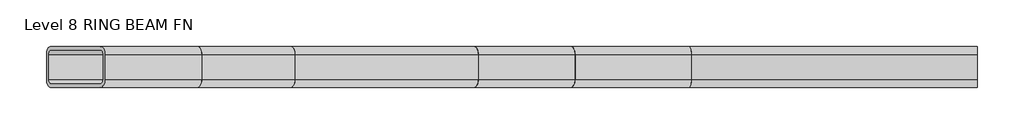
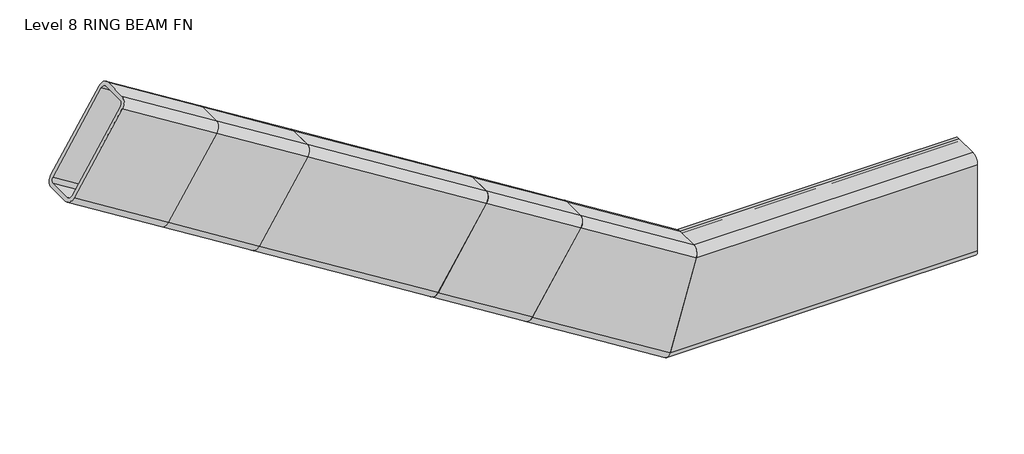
# One storey: 6 beams.
"""IFC4 building model written with IfcOpenShell, lengths in millimetres."""

from ifc_helpers import new_model, si_unit, frame, origin, place, context, project, spatial, polyline, circle_curve, ellipse_curve, transform, mapped, element, save
from ifc_brep_helpers import plane_surface, cylinder_surface, revolved_surface, advanced_brep
from components import rectangular_and_square_hollow_sections_784448e1, rectangular_and_square_hollow_sections_0bb3da22, rectangular_and_square_hollow_sections_b0745ad2, rectangular_and_square_hollow_sections_4b37a91f

model = new_model("IFC4")

# Units and contexts
model_context = context("Model", 3, world=origin())
ifc_project = project(units=[si_unit("LENGTHUNIT", "METRE", prefix="MILLI")], contexts=[model_context])

# Site, building, storey
site = spatial("IfcSite", under=ifc_project)
building = spatial("IfcBuilding", under=site)
storey = spatial("IfcBuildingStorey", under=building, Name="Level 8 RING BEAM FN", Elevation=-1875.7498364)

# Beams
placement = place(None, origin())
element("IfcBeam", 1, ObjectType="Rectangular and Square Hollow Sections : TREC160x60x6", at=placement, inside=storey, context=model_context, shape_type="AdvancedBrep", body=[
    advanced_brep(
    [(2399.3600129, 2207.1252219, -1831.747381), (2399.3600129, 2195.1252219, -1819.747381), (2399.3600129, 2159.1252219, -1819.747381), (2399.3600129, 2147.1252219, -1831.747381), (2399.3600129, 2147.1252219, -1967.747381), (2399.3600129, 2159.1252219, -1979.747381), (2399.3600129, 2195.1252219, -1979.747381), (2399.3600129, 2207.1252219, -1967.747381), (2399.3600129, 2159.1252219, -1825.747381), (2399.3600129, 2195.1252219, -1825.747381), (2399.3600129, 2201.1252219, -1831.747381), (2399.3600129, 2201.1252219, -1967.747381), (2399.3600129, 2195.1252219, -1973.747381), (2399.3600129, 2159.1252219, -1973.747381), (2399.3600129, 2153.1252219, -1967.747381), (2399.3600129, 2153.1252219, -1831.747381), (1979.7764586, 2207.1252219, -1831.747381), (1983.2174032, 2195.1252219, -1819.747381), (1983.2174032, 2159.1252219, -1819.747381), (1979.7764586, 2147.1252219, -1831.747381), (1940.7790862, 2147.1252219, -1967.747381), (1937.3381416, 2159.1252219, -1979.747381), (1937.3381416, 2195.1252219, -1979.747381), (1940.7790862, 2207.1252219, -1967.747381), (1981.4969309, 2159.1252219, -1825.747381), (1981.4969309, 2195.1252219, -1825.747381), (1979.7764586, 2201.1252219, -1831.747381), (1940.7790862, 2201.1252219, -1967.747381), (1939.0586139, 2195.1252219, -1973.747381), (1939.0586139, 2159.1252219, -1973.747381), (1940.7790862, 2153.1252219, -1967.747381), (1979.7764586, 2153.1252219, -1831.747381)],
    [
        (0, 1, circle_curve(frame((2399.3600129, 2195.1252219, -1831.747381), z_axis=(1.0, 0.0, 0.0), x_axis=(0.0, -1.0, 0.0)), 12.0)),
        (1, 2),
        (2, 3, circle_curve(frame((2399.3600129, 2159.1252219, -1831.747381), z_axis=(1.0, 0.0, 0.0), x_axis=(0.0, -1.0, 0.0)), 12.0)),
        (3, 4),
        (4, 5, circle_curve(frame((2399.3600129, 2159.1252219, -1967.747381), z_axis=(1.0, 0.0, 0.0), x_axis=(0.0, -1.0, 0.0)), 12.0)),
        (5, 6),
        (6, 7, circle_curve(frame((2399.3600129, 2195.1252219, -1967.747381), z_axis=(1.0, 0.0, 0.0), x_axis=(0.0, -1.0, 0.0)), 12.0)),
        (7, 0),
        (8, 9),
        (9, 10, circle_curve(frame((2399.3600129, 2195.1252219, -1831.747381), z_axis=(-1.0, 0.0, 0.0), x_axis=(0.0, -1.0, 0.0)), 6.0)),
        (10, 11),
        (11, 12, circle_curve(frame((2399.3600129, 2195.1252219, -1967.747381), z_axis=(-1.0, 0.0, 0.0), x_axis=(0.0, -1.0, 0.0)), 6.0)),
        (12, 13),
        (13, 14, circle_curve(frame((2399.3600129, 2159.1252219, -1967.747381), z_axis=(-1.0, 0.0, 0.0), x_axis=(0.0, -1.0, 0.0)), 6.0)),
        (14, 15),
        (15, 8, circle_curve(frame((2399.3600129, 2159.1252219, -1831.747381), z_axis=(-1.0, 0.0, 0.0), x_axis=(0.0, -1.0, 0.0)), 6.0)),
        (0, 16),
        (16, 17, ellipse_curve(frame((1979.7764586, 2195.1252219, -1831.747381), z_axis=(0.9612616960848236, 0.0, -0.2756373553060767), x_axis=(0.2756373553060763, 0.0, 0.9612616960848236)), 12.4835932, 12.0)),
        (17, 1),
        (17, 18),
        (18, 2),
        (18, 19, ellipse_curve(frame((1979.7764586, 2159.1252219, -1831.747381), z_axis=(0.9612616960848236, 0.0, -0.2756373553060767), x_axis=(0.2756373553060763, 0.0, 0.9612616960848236)), 12.4835932, 12.0)),
        (19, 3),
        (19, 20),
        (20, 4),
        (20, 21, ellipse_curve(frame((1940.7790862, 2159.1252219, -1967.747381), z_axis=(0.9612616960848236, 0.0, -0.2756373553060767), x_axis=(0.2756373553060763, 0.0, 0.9612616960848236)), 12.4835932, 12.0)),
        (21, 5),
        (21, 22),
        (22, 6),
        (22, 23, ellipse_curve(frame((1940.7790862, 2195.1252219, -1967.747381), z_axis=(0.9612616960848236, 0.0, -0.2756373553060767), x_axis=(0.2756373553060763, 0.0, 0.9612616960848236)), 12.4835932, 12.0)),
        (23, 7),
        (23, 16),
        (8, 24),
        (24, 25),
        (25, 9),
        (25, 26, ellipse_curve(frame((1979.7764586, 2195.1252219, -1831.747381), z_axis=(-0.9612616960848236, 0.0, 0.2756373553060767), x_axis=(-0.2756373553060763, 0.0, -0.9612616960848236)), 6.2417966, 6.0)),
        (26, 10),
        (26, 27),
        (27, 11),
        (27, 28, ellipse_curve(frame((1940.7790862, 2195.1252219, -1967.747381), z_axis=(-0.9612616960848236, 0.0, 0.2756373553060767), x_axis=(-0.2756373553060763, 0.0, -0.9612616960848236)), 6.2417966, 6.0)),
        (28, 12),
        (28, 29),
        (29, 13),
        (29, 30, ellipse_curve(frame((1940.7790862, 2159.1252219, -1967.747381), z_axis=(-0.9612616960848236, 0.0, 0.2756373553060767), x_axis=(-0.2756373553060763, 0.0, -0.9612616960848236)), 6.2417966, 6.0)),
        (30, 14),
        (30, 31),
        (31, 15),
        (31, 24, ellipse_curve(frame((1979.7764586, 2159.1252219, -1831.747381), z_axis=(-0.9612616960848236, 0.0, 0.2756373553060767), x_axis=(-0.2756373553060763, 0.0, -0.9612616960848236)), 6.2417966, 6.0)),
    ],
    [
        plane_surface(frame((2399.3600129, 2177.1252219, -1899.747381), z_axis=(1.0, 0.0, 0.0), x_axis=(0.0, 0.0, 1.0))),
        cylinder_surface(frame((2399.3600129, 2195.1252219, -1831.747381), z_axis=(1.0, 0.0, 0.0), x_axis=(0.0, -1.0, 0.0)), 12.0),
        plane_surface(frame((2399.3600129, 2195.1252219, -1819.747381), z_axis=(0.0, 0.0, 1.0), x_axis=(-1.0, 0.0, 0.0))),
        cylinder_surface(frame((2399.3600129, 2159.1252219, -1831.747381), z_axis=(1.0, 0.0, 0.0), x_axis=(0.0, -1.0, 0.0)), 12.0),
        plane_surface(frame((2399.3600129, 2147.1252219, -1831.747381), z_axis=(0.0, -1.0, 0.0), x_axis=(-1.0, 0.0, 0.0))),
        cylinder_surface(frame((2399.3600129, 2159.1252219, -1967.747381), z_axis=(1.0, 0.0, 0.0), x_axis=(0.0, -1.0, 0.0)), 12.0),
        plane_surface(frame((2399.3600129, 2159.1252219, -1979.747381), z_axis=(0.0, 0.0, -1.0), x_axis=(-1.0, 0.0, 0.0))),
        cylinder_surface(frame((2399.3600129, 2195.1252219, -1967.747381), z_axis=(1.0, 0.0, 0.0), x_axis=(0.0, -1.0, 0.0)), 12.0),
        plane_surface(frame((2399.3600129, 2207.1252219, -1967.747381), z_axis=(0.0, 1.0, 0.0), x_axis=(-1.0, 0.0, 0.0))),
        plane_surface(frame((2399.3600129, 2159.1252219, -1825.747381), z_axis=(0.0, 0.0, -1.0), x_axis=(-1.0, 0.0, 0.0))),
        revolved_surface(polyline([(1978.0559862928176, 2189.1252219, -1831.747381), (2399.3600129, 2189.1252219, -1831.747381)]), (2399.3600129, 2195.1252219, -1831.747381), (-1.0, 0.0, 0.0)),
        plane_surface(frame((2399.3600129, 2201.1252219, -1831.747381), z_axis=(0.0, -1.0, 0.0), x_axis=(-1.0, 0.0, 0.0))),
        revolved_surface(polyline([(1939.0586138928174, 2189.1252219, -1967.747381), (2399.3600129, 2189.1252219, -1967.747381)]), (2399.3600129, 2195.1252219, -1967.747381), (-1.0, 0.0, 0.0)),
        plane_surface(frame((2399.3600129, 2195.1252219, -1973.747381), z_axis=(0.0, 0.0, 1.0), x_axis=(-1.0, 0.0, 0.0))),
        revolved_surface(polyline([(1939.0586138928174, 2153.1252219, -1967.747381), (2399.3600129, 2153.1252219, -1967.747381)]), (2399.3600129, 2159.1252219, -1967.747381), (-1.0, 0.0, 0.0)),
        plane_surface(frame((2399.3600129, 2153.1252219, -1967.747381), z_axis=(0.0, 1.0, 0.0), x_axis=(-1.0, 0.0, 0.0))),
        revolved_surface(polyline([(1978.0559862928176, 2153.1252219, -1831.747381), (2399.3600129, 2153.1252219, -1831.747381)]), (2399.3600129, 2159.1252219, -1831.747381), (-1.0, 0.0, 0.0)),
        plane_surface(frame((1983.2174032, 2177.1252219, -1819.747381), z_axis=(-0.9612616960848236, 0.0, 0.2756373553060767), x_axis=(0.2756373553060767, 0.0, 0.9612616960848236))),
    ],
    [
        (0, [[1, 2, 3, 4, 5, 6, 7, 8], [9, 10, 11, 12, 13, 14, 15, 16]]),
        (1, [[-1, 17, 18, 19]]),
        (2, [[-2, -19, 20, 21]]),
        (3, [[-3, -21, 22, 23]]),
        (4, [[-4, -23, 24, 25]]),
        (5, [[-5, -25, 26, 27]]),
        (6, [[-6, -27, 28, 29]]),
        (7, [[-7, -29, 30, 31]]),
        (8, [[-8, -31, 32, -17]]),
        (9, [[-9, 33, 34, 35]]),
        (10, [[-10, -35, 36, 37]]),
        (11, [[-11, -37, 38, 39]]),
        (12, [[-12, -39, 40, 41]]),
        (13, [[-13, -41, 42, 43]]),
        (14, [[-14, -43, 44, 45]]),
        (15, [[-15, -45, 46, 47]]),
        (16, [[-16, -47, 48, -33]]),
        (17, [[-32, -30, -28, -26, -24, -22, -20, -18], [-48, -46, -44, -42, -40, -38, -36, -34]]),
    ],
),
])
element("IfcBeam", 2, ObjectType="Rectangular and Square Hollow Sections : TREC160x60x6", at=placement, inside=storey, context=model_context, shape_type="AdvancedBrep", body=[
    advanced_brep(
    [(1807.6985802, 2207.1252219, -1724.2211889), (1735.6295604, 2207.1252219, -1839.5557301), (1729.2705292, 2195.1252219, -1849.7323072), (1729.2705292, 2159.1252219, -1849.7323072), (1735.6295604, 2147.1252219, -1839.5557301), (1807.6985802, 2147.1252219, -1724.2211889), (1814.0576114, 2159.1252219, -1714.0446117), (1814.0576114, 2195.1252219, -1714.0446117), (1810.8780958, 2159.1252219, -1719.1329003), (1807.6985802, 2153.1252219, -1724.2211889), (1735.6295604, 2153.1252219, -1839.5557301), (1732.4500448, 2159.1252219, -1844.6440186), (1732.4500448, 2195.1252219, -1844.6440186), (1735.6295604, 2201.1252219, -1839.5557301), (1807.6985802, 2201.1252219, -1724.2211889), (1810.8780958, 2195.1252219, -1719.1329003), (1983.2174032, 2195.1252219, -1819.747381), (1979.7764586, 2207.1252219, -1831.747381), (1983.2174032, 2159.1252219, -1819.747381), (1979.7764586, 2147.1252219, -1831.747381), (1940.7790862, 2147.1252219, -1967.747381), (1937.3381416, 2159.1252219, -1979.747381), (1937.3381416, 2195.1252219, -1979.747381), (1940.7790862, 2207.1252219, -1967.747381), (1981.4969309, 2195.1252219, -1825.747381), (1981.4969309, 2159.1252219, -1825.747381), (1979.7764586, 2201.1252219, -1831.747381), (1940.7790862, 2201.1252219, -1967.747381), (1939.0586139, 2195.1252219, -1973.747381), (1939.0586139, 2159.1252219, -1973.747381), (1940.7790862, 2153.1252219, -1967.747381), (1979.7764586, 2153.1252219, -1831.747381)],
    [
        (0, 1),
        (1, 2, circle_curve(frame((1735.6295604, 2195.1252219, -1839.5557301), z_axis=(-0.8480480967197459, 0.0, 0.5299192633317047), x_axis=(0.0, -1.0, 0.0)), 12.0)),
        (2, 3),
        (3, 4, circle_curve(frame((1735.6295604, 2159.1252219, -1839.5557301), z_axis=(-0.8480480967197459, 0.0, 0.5299192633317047), x_axis=(0.0, -1.0, 0.0)), 12.0)),
        (4, 5),
        (5, 6, circle_curve(frame((1807.6985802, 2159.1252219, -1724.2211889), z_axis=(-0.8480480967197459, 0.0, 0.5299192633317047), x_axis=(0.0, -1.0, 0.0)), 12.0)),
        (6, 7),
        (7, 0, circle_curve(frame((1807.6985802, 2195.1252219, -1724.2211889), z_axis=(-0.8480480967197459, 0.0, 0.5299192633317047), x_axis=(0.0, -1.0, 0.0)), 12.0)),
        (8, 9, circle_curve(frame((1807.6985802, 2159.1252219, -1724.2211889), z_axis=(0.8480480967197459, 0.0, -0.5299192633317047), x_axis=(0.0, -1.0, 0.0)), 6.0)),
        (9, 10),
        (10, 11, circle_curve(frame((1735.6295604, 2159.1252219, -1839.5557301), z_axis=(0.8480480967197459, 0.0, -0.5299192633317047), x_axis=(0.0, -1.0, 0.0)), 6.0)),
        (11, 12),
        (12, 13, circle_curve(frame((1735.6295604, 2195.1252219, -1839.5557301), z_axis=(0.8480480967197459, 0.0, -0.5299192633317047), x_axis=(0.0, -1.0, 0.0)), 6.0)),
        (13, 14),
        (14, 15, circle_curve(frame((1807.6985802, 2195.1252219, -1724.2211889), z_axis=(0.8480480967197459, 0.0, -0.5299192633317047), x_axis=(0.0, -1.0, 0.0)), 6.0)),
        (15, 8),
        (16, 17, ellipse_curve(frame((1979.7764586, 2195.1252219, -1831.747381), z_axis=(-0.9612616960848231, 0.0, 0.27563735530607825), x_axis=(-0.2756373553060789, 0.0, -0.9612616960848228)), 12.4835932, 12.0)),
        (17, 0),
        (7, 16),
        (18, 16),
        (6, 18),
        (19, 18, ellipse_curve(frame((1979.7764586, 2159.1252219, -1831.747381), z_axis=(-0.9612616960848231, 0.0, 0.27563735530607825), x_axis=(-0.2756373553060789, 0.0, -0.9612616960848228)), 12.4835932, 12.0)),
        (5, 19),
        (20, 19),
        (4, 20),
        (21, 20, ellipse_curve(frame((1940.7790862, 2159.1252219, -1967.747381), z_axis=(-0.9612616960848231, 0.0, 0.27563735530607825), x_axis=(-0.2756373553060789, 0.0, -0.9612616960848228)), 12.4835932, 12.0)),
        (3, 21),
        (22, 21),
        (2, 22),
        (23, 22, ellipse_curve(frame((1940.7790862, 2195.1252219, -1967.747381), z_axis=(-0.9612616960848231, 0.0, 0.27563735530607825), x_axis=(-0.2756373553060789, 0.0, -0.9612616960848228)), 12.4835932, 12.0)),
        (1, 23),
        (17, 23),
        (24, 25),
        (25, 8),
        (15, 24),
        (26, 24, ellipse_curve(frame((1979.7764586, 2195.1252219, -1831.747381), z_axis=(0.9612616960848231, 0.0, -0.27563735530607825), x_axis=(0.2756373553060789, 0.0, 0.9612616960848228)), 6.2417966, 6.0)),
        (14, 26),
        (27, 26),
        (13, 27),
        (28, 27, ellipse_curve(frame((1940.7790862, 2195.1252219, -1967.747381), z_axis=(0.9612616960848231, 0.0, -0.27563735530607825), x_axis=(0.2756373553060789, 0.0, 0.9612616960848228)), 6.2417966, 6.0)),
        (12, 28),
        (29, 28),
        (11, 29),
        (30, 29, ellipse_curve(frame((1940.7790862, 2159.1252219, -1967.747381), z_axis=(0.9612616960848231, 0.0, -0.27563735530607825), x_axis=(0.2756373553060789, 0.0, 0.9612616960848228)), 6.2417966, 6.0)),
        (10, 30),
        (31, 30),
        (9, 31),
        (25, 31, ellipse_curve(frame((1979.7764586, 2159.1252219, -1831.747381), z_axis=(0.9612616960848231, 0.0, -0.27563735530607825), x_axis=(0.2756373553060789, 0.0, 0.9612616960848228)), 6.2417966, 6.0)),
    ],
    [
        plane_surface(frame((1771.6640703, 2177.1252219, -1781.8884595), z_axis=(-0.8480480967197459, 0.0, 0.5299192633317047), x_axis=(0.5299192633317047, 0.0, 0.8480480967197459))),
        cylinder_surface(frame((1995.9652577, 2195.1252219, -1841.8632654), z_axis=(0.8480480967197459, 0.0, -0.5299192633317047), x_axis=(0.0, -1.0, 0.0)), 12.0),
        plane_surface(frame((2002.3242888, 2195.1252219, -1831.6866882), z_axis=(0.5299192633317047, 0.0, 0.8480480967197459), x_axis=(-0.8480480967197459, 0.0, 0.5299192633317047))),
        cylinder_surface(frame((1995.9652577, 2159.1252219, -1841.8632654), z_axis=(0.8480480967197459, 0.0, -0.5299192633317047), x_axis=(0.0, -1.0, 0.0)), 12.0),
        plane_surface(frame((1995.9652577, 2147.1252219, -1841.8632654), z_axis=(0.0, -1.0, 0.0), x_axis=(-0.8480480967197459, 0.0, 0.5299192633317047))),
        cylinder_surface(frame((1923.8962379, 2159.1252219, -1957.1978065), z_axis=(0.8480480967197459, 0.0, -0.5299192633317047), x_axis=(0.0, -1.0, 0.0)), 12.0),
        plane_surface(frame((1917.5372067, 2159.1252219, -1967.3743837), z_axis=(-0.5299192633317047, 0.0, -0.8480480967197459), x_axis=(-0.8480480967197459, 0.0, 0.5299192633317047))),
        cylinder_surface(frame((1923.8962379, 2195.1252219, -1957.1978065), z_axis=(0.8480480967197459, 0.0, -0.5299192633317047), x_axis=(0.0, -1.0, 0.0)), 12.0),
        plane_surface(frame((1923.8962379, 2207.1252219, -1957.1978065), z_axis=(0.0, 1.0, 0.0), x_axis=(-0.8480480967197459, 0.0, 0.5299192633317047))),
        plane_surface(frame((1999.1447733, 2159.1252219, -1836.7749768), z_axis=(-0.5299192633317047, 0.0, -0.8480480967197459), x_axis=(-0.8480480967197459, 0.0, 0.5299192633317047))),
        revolved_surface(polyline([(1807.6985801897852, 2189.1252219, -1724.221188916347), (1981.2355018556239, 2189.1252219, -1832.6590924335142)]), (1995.9652577, 2195.1252219, -1841.8632654), (-0.8480480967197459, 0.0, 0.5299192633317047)),
        plane_surface(frame((1995.9652577, 2201.1252219, -1841.8632654), z_axis=(0.0, -1.0, 0.0), x_axis=(-0.8480480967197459, 0.0, 0.5299192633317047))),
        revolved_surface(polyline([(1735.629560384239, 2189.1252219, -1839.5557300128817), (1942.2381294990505, 2189.1252219, -1968.6590923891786)]), (1923.8962379, 2195.1252219, -1957.1978065), (-0.8480480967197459, 0.0, 0.5299192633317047)),
        plane_surface(frame((1920.7167223, 2195.1252219, -1962.2860951), z_axis=(0.5299192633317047, 0.0, 0.8480480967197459), x_axis=(-0.8480480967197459, 0.0, 0.5299192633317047))),
        revolved_surface(polyline([(1735.629560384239, 2153.1252219, -1839.5557300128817), (1942.2381294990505, 2153.1252219, -1968.6590923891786)]), (1923.8962379, 2159.1252219, -1957.1978065), (-0.8480480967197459, 0.0, 0.5299192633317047)),
        plane_surface(frame((1923.8962379, 2153.1252219, -1957.1978065), z_axis=(0.0, 1.0, 0.0), x_axis=(-0.8480480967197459, 0.0, 0.5299192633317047))),
        revolved_surface(polyline([(1807.6985801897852, 2153.1252219, -1724.221188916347), (1981.2355018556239, 2153.1252219, -1832.6590924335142)]), (1995.9652577, 2159.1252219, -1841.8632654), (-0.8480480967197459, 0.0, 0.5299192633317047)),
        plane_surface(frame((1983.2174032, 2177.1252219, -1819.747381), z_axis=(0.9612616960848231, 0.0, -0.27563735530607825), x_axis=(0.27563735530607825, 0.0, 0.9612616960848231))),
    ],
    [
        (0, [[1, 2, 3, 4, 5, 6, 7, 8], [9, 10, 11, 12, 13, 14, 15, 16]]),
        (1, [[17, 18, -8, 19]]),
        (2, [[20, -19, -7, 21]]),
        (3, [[22, -21, -6, 23]]),
        (4, [[24, -23, -5, 25]]),
        (5, [[26, -25, -4, 27]]),
        (6, [[28, -27, -3, 29]]),
        (7, [[30, -29, -2, 31]]),
        (8, [[32, -31, -1, -18]]),
        (9, [[33, 34, -16, 35]]),
        (10, [[36, -35, -15, 37]]),
        (11, [[38, -37, -14, 39]]),
        (12, [[40, -39, -13, 41]]),
        (13, [[42, -41, -12, 43]]),
        (14, [[44, -43, -11, 45]]),
        (15, [[46, -45, -10, 47]]),
        (16, [[48, -47, -9, -34]]),
        (17, [[-17, -20, -22, -24, -26, -28, -30, -32], [-33, -36, -38, -40, -42, -44, -46, -48]]),
    ],
),
])
rectangular_and_square_hollow_sections_shape = rectangular_and_square_hollow_sections_784448e1(model_context)
element("IfcBeam", 3, ObjectType="Rectangular and Square Hollow Sections : TREC160x60x6", at=placement, inside=storey, context=model_context, shape_type="MappedRepresentation", body=[
    mapped(rectangular_and_square_hollow_sections_shape, transform((1152.6659594, 2177.1252219, -1395.095511), x_axis=(0.8480480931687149, 0.0, -0.5299192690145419), y_axis=(0.0, 0.9999999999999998, 0.0), z_axis=(0.529919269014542, 0.0, 0.848048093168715))),
])
rectangular_and_square_hollow_sections_2_shape = rectangular_and_square_hollow_sections_0bb3da22(model_context)
element("IfcBeam", 4, ObjectType="Rectangular and Square Hollow Sections : TREC160x60x6", at=placement, inside=storey, context=model_context, shape_type="MappedRepresentation", body=[
    mapped(rectangular_and_square_hollow_sections_2_shape, transform((1285.3854864, 2177.1252219, -1478.027876), x_axis=(0.8480480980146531, 0.0, -0.5299192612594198), y_axis=(0.0, 0.9999999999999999, 0.0), z_axis=(0.5299192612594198, 0.0, 0.8480480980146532))),
])
rectangular_and_square_hollow_sections_3_shape = rectangular_and_square_hollow_sections_b0745ad2(model_context)
element("IfcBeam", 5, ObjectType="Rectangular and Square Hollow Sections : TREC160x60x6", at=placement, inside=storey, context=model_context, shape_type="MappedRepresentation", body=[
    mapped(rectangular_and_square_hollow_sections_3_shape, transform((1491.8911239, 2177.1252219, -1607.063217), x_axis=(0.8480582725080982, 0.0, -0.5299029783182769), y_axis=(0.0, 1.0, 0.0), z_axis=(0.5299029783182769, 0.0, 0.8480582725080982))),
])
rectangular_and_square_hollow_sections_4_shape = rectangular_and_square_hollow_sections_4b37a91f(model_context)
element("IfcBeam", 6, ObjectType="Rectangular and Square Hollow Sections : TREC160x60x6", at=placement, inside=storey, context=model_context, shape_type="MappedRepresentation", body=[
    mapped(rectangular_and_square_hollow_sections_4_shape, transform((1695.4226669, 2177.1252219, -1734.2438405), x_axis=(0.8480263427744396, 0.0, -0.5299540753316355), y_axis=(0.0, 1.0, 0.0), z_axis=(0.5299540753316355, 0.0, 0.8480263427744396))),
])

save(model, "model.ifc")
